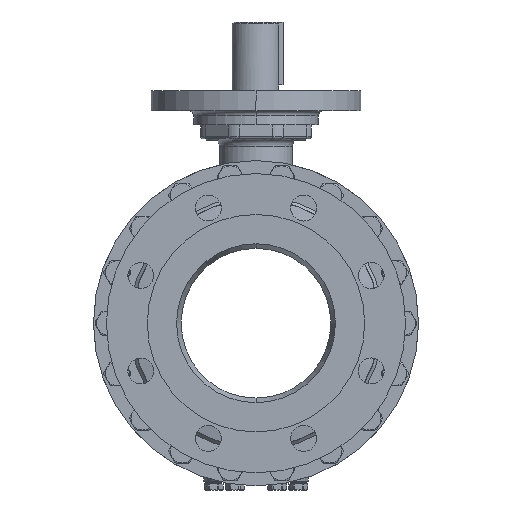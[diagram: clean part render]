
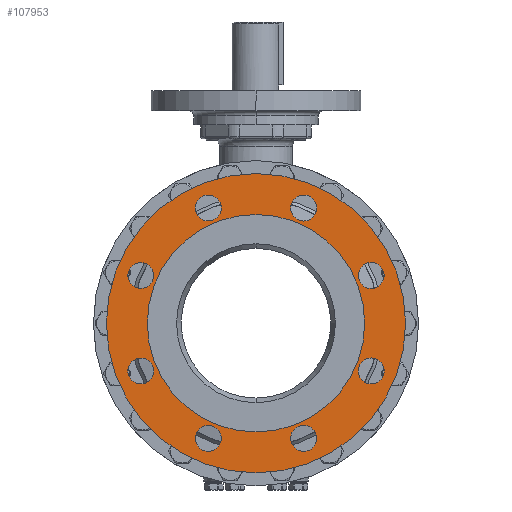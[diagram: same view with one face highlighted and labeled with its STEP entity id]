
A CAD part, left-side view. The second image highlights one B-rep face of the part: STEP entity #107953.
In plain terms, the highlighted planar face has unit normal (-1, 0, 0).
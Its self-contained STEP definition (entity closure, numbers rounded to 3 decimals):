
#28371=CARTESIAN_POINT('',(-198.5,0.,0.));
#28372=DIRECTION('',(-1.,0.,0.));
#28373=DIRECTION('',(0.,0.,1.));
#28374=AXIS2_PLACEMENT_3D('',#28371,#28372,#28373);
#28376=CARTESIAN_POINT('',(-198.5,0.,0.));
#28377=DIRECTION('',(-1.,0.,0.));
#28378=DIRECTION('',(0.,0.,-1.));
#28379=AXIS2_PLACEMENT_3D('',#28376,#28377,#28378);
#28381=CARTESIAN_POINT('',(-198.5,-47.835,115.485));
#28382=DIRECTION('',(-1.,0.,0.));
#28383=DIRECTION('',(0.,-1.,0.));
#28384=AXIS2_PLACEMENT_3D('',#28381,#28382,#28383);
#28386=CARTESIAN_POINT('',(-198.5,-47.835,115.485));
#28387=DIRECTION('',(-1.,0.,0.));
#28388=DIRECTION('',(0.,1.,0.));
#28389=AXIS2_PLACEMENT_3D('',#28386,#28387,#28388);
#28391=CARTESIAN_POINT('',(-198.5,47.835,115.485));
#28392=DIRECTION('',(-1.,0.,0.));
#28393=DIRECTION('',(0.,-0.707,0.707));
#28394=AXIS2_PLACEMENT_3D('',#28391,#28392,#28393);
#28396=CARTESIAN_POINT('',(-198.5,47.835,115.485));
#28397=DIRECTION('',(-1.,0.,0.));
#28398=DIRECTION('',(0.,0.707,-0.707));
#28399=AXIS2_PLACEMENT_3D('',#28396,#28397,#28398);
#28401=CARTESIAN_POINT('',(-198.5,115.485,47.835));
#28402=DIRECTION('',(-1.,0.,0.));
#28403=DIRECTION('',(0.,0.,1.));
#28404=AXIS2_PLACEMENT_3D('',#28401,#28402,#28403);
#28406=CARTESIAN_POINT('',(-198.5,115.485,47.835));
#28407=DIRECTION('',(-1.,0.,0.));
#28408=DIRECTION('',(0.,0.,-1.));
#28409=AXIS2_PLACEMENT_3D('',#28406,#28407,#28408);
#28411=CARTESIAN_POINT('',(-198.5,115.485,-47.835));
#28412=DIRECTION('',(-1.,0.,0.));
#28413=DIRECTION('',(0.,0.707,0.707));
#28414=AXIS2_PLACEMENT_3D('',#28411,#28412,#28413);
#28416=CARTESIAN_POINT('',(-198.5,115.485,-47.835));
#28417=DIRECTION('',(-1.,0.,0.));
#28418=DIRECTION('',(0.,-0.707,-0.707));
#28419=AXIS2_PLACEMENT_3D('',#28416,#28417,#28418);
#28421=CARTESIAN_POINT('',(-198.5,47.835,-115.485));
#28422=DIRECTION('',(-1.,0.,0.));
#28423=DIRECTION('',(0.,1.,0.));
#28424=AXIS2_PLACEMENT_3D('',#28421,#28422,#28423);
#28426=CARTESIAN_POINT('',(-198.5,47.835,-115.485));
#28427=DIRECTION('',(-1.,0.,0.));
#28428=DIRECTION('',(0.,-1.,0.));
#28429=AXIS2_PLACEMENT_3D('',#28426,#28427,#28428);
#28431=CARTESIAN_POINT('',(-198.5,-47.835,-115.485));
#28432=DIRECTION('',(-1.,0.,0.));
#28433=DIRECTION('',(0.,0.707,-0.707));
#28434=AXIS2_PLACEMENT_3D('',#28431,#28432,#28433);
#28436=CARTESIAN_POINT('',(-198.5,-47.835,-115.485));
#28437=DIRECTION('',(-1.,0.,0.));
#28438=DIRECTION('',(0.,-0.707,0.707));
#28439=AXIS2_PLACEMENT_3D('',#28436,#28437,#28438);
#28441=CARTESIAN_POINT('',(-198.5,-115.485,-47.835));
#28442=DIRECTION('',(-1.,0.,0.));
#28443=DIRECTION('',(0.,0.,-1.));
#28444=AXIS2_PLACEMENT_3D('',#28441,#28442,#28443);
#28446=CARTESIAN_POINT('',(-198.5,-115.485,-47.835));
#28447=DIRECTION('',(-1.,0.,0.));
#28448=DIRECTION('',(0.,0.,1.));
#28449=AXIS2_PLACEMENT_3D('',#28446,#28447,#28448);
#28451=CARTESIAN_POINT('',(-198.5,-115.485,47.835));
#28452=DIRECTION('',(-1.,0.,0.));
#28453=DIRECTION('',(0.,-0.707,-0.707));
#28454=AXIS2_PLACEMENT_3D('',#28451,#28452,#28453);
#28456=CARTESIAN_POINT('',(-198.5,-115.485,47.835));
#28457=DIRECTION('',(-1.,0.,0.));
#28458=DIRECTION('',(0.,0.707,0.707));
#28459=AXIS2_PLACEMENT_3D('',#28456,#28457,#28458);
#28465=CARTESIAN_POINT('',(-198.5,0.,0.));
#28466=DIRECTION('',(-1.,0.,0.));
#28467=DIRECTION('',(0.,0.,1.));
#28468=AXIS2_PLACEMENT_3D('',#28465,#28466,#28467);
#28494=CARTESIAN_POINT('',(-198.5,0.,0.));
#28495=DIRECTION('',(1.,0.,0.));
#28496=DIRECTION('',(0.,0.,1.));
#28497=AXIS2_PLACEMENT_3D('',#28494,#28495,#28496);
#57952=CARTESIAN_POINT('',(-198.5,0.,109.));
#57953=CARTESIAN_POINT('',(-198.5,0.,-109.));
#57954=VERTEX_POINT('',#57952);
#57955=VERTEX_POINT('',#57953);
#57956=CARTESIAN_POINT('',(-198.5,0.,150.));
#57957=CARTESIAN_POINT('',(-198.5,0.,-150.));
#57958=VERTEX_POINT('',#57956);
#57959=VERTEX_POINT('',#57957);
#57968=CARTESIAN_POINT('',(-198.5,-60.835,115.485));
#57969=CARTESIAN_POINT('',(-198.5,-34.835,115.485));
#57970=VERTEX_POINT('',#57968);
#57971=VERTEX_POINT('',#57969);
#57976=CARTESIAN_POINT('',(-198.5,38.643,124.677));
#57977=CARTESIAN_POINT('',(-198.5,57.028,106.293));
#57978=VERTEX_POINT('',#57976);
#57979=VERTEX_POINT('',#57977);
#57984=CARTESIAN_POINT('',(-198.5,115.485,60.835));
#57985=CARTESIAN_POINT('',(-198.5,115.485,34.835));
#57986=VERTEX_POINT('',#57984);
#57987=VERTEX_POINT('',#57985);
#57992=CARTESIAN_POINT('',(-198.5,124.677,-38.643));
#57993=CARTESIAN_POINT('',(-198.5,106.293,-57.028));
#57994=VERTEX_POINT('',#57992);
#57995=VERTEX_POINT('',#57993);
#58000=CARTESIAN_POINT('',(-198.5,60.835,-115.485));
#58001=CARTESIAN_POINT('',(-198.5,34.835,-115.485));
#58002=VERTEX_POINT('',#58000);
#58003=VERTEX_POINT('',#58001);
#58008=CARTESIAN_POINT('',(-198.5,-38.643,-124.677));
#58009=CARTESIAN_POINT('',(-198.5,-57.028,-106.293));
#58010=VERTEX_POINT('',#58008);
#58011=VERTEX_POINT('',#58009);
#58016=CARTESIAN_POINT('',(-198.5,-115.485,-60.835));
#58017=CARTESIAN_POINT('',(-198.5,-115.485,-34.835));
#58018=VERTEX_POINT('',#58016);
#58019=VERTEX_POINT('',#58017);
#58024=CARTESIAN_POINT('',(-198.5,-124.677,38.643));
#58025=CARTESIAN_POINT('',(-198.5,-106.293,57.028));
#58026=VERTEX_POINT('',#58024);
#58027=VERTEX_POINT('',#58025);
#107889=CARTESIAN_POINT('',(-198.5,0.,0.));
#107890=DIRECTION('',(1.,0.,0.));
#107891=DIRECTION('',(0.,0.,1.));
#107892=AXIS2_PLACEMENT_3D('',#107889,#107890,#107891);
#107893=PLANE('',#107892);
#107895=ORIENTED_EDGE('',*,*,#107894,.F.);
#107896=ORIENTED_EDGE('',*,*,#107879,.F.);
#107897=EDGE_LOOP('',(#107895,#107896));
#107898=FACE_OUTER_BOUND('',#107897,.F.);
#107900=ORIENTED_EDGE('',*,*,#107899,.T.);
#107902=ORIENTED_EDGE('',*,*,#107901,.F.);
#107903=EDGE_LOOP('',(#107900,#107902));
#107904=FACE_BOUND('',#107903,.F.);
#107906=ORIENTED_EDGE('',*,*,#107905,.T.);
#107908=ORIENTED_EDGE('',*,*,#107907,.T.);
#107909=EDGE_LOOP('',(#107906,#107908));
#107910=FACE_BOUND('',#107909,.F.);
#107912=ORIENTED_EDGE('',*,*,#107911,.T.);
#107914=ORIENTED_EDGE('',*,*,#107913,.T.);
#107915=EDGE_LOOP('',(#107912,#107914));
#107916=FACE_BOUND('',#107915,.F.);
#107918=ORIENTED_EDGE('',*,*,#107917,.T.);
#107920=ORIENTED_EDGE('',*,*,#107919,.T.);
#107921=EDGE_LOOP('',(#107918,#107920));
#107922=FACE_BOUND('',#107921,.F.);
#107924=ORIENTED_EDGE('',*,*,#107923,.T.);
#107926=ORIENTED_EDGE('',*,*,#107925,.T.);
#107927=EDGE_LOOP('',(#107924,#107926));
#107928=FACE_BOUND('',#107927,.F.);
#107930=ORIENTED_EDGE('',*,*,#107929,.T.);
#107932=ORIENTED_EDGE('',*,*,#107931,.T.);
#107933=EDGE_LOOP('',(#107930,#107932));
#107934=FACE_BOUND('',#107933,.F.);
#107936=ORIENTED_EDGE('',*,*,#107935,.T.);
#107938=ORIENTED_EDGE('',*,*,#107937,.T.);
#107939=EDGE_LOOP('',(#107936,#107938));
#107940=FACE_BOUND('',#107939,.F.);
#107942=ORIENTED_EDGE('',*,*,#107941,.T.);
#107944=ORIENTED_EDGE('',*,*,#107943,.T.);
#107945=EDGE_LOOP('',(#107942,#107944));
#107946=FACE_BOUND('',#107945,.F.);
#107948=ORIENTED_EDGE('',*,*,#107947,.T.);
#107950=ORIENTED_EDGE('',*,*,#107949,.T.);
#107951=EDGE_LOOP('',(#107948,#107950));
#107952=FACE_BOUND('',#107951,.F.);
#107953=ADVANCED_FACE('',(#107898,#107904,#107910,#107916,#107922,#107928,
#107934,#107940,#107946,#107952),#107893,.F.);
#28375=CIRCLE('',#28374,150.);
#28380=CIRCLE('',#28379,150.);
#28385=CIRCLE('',#28384,13.);
#28390=CIRCLE('',#28389,13.);
#28395=CIRCLE('',#28394,13.);
#28400=CIRCLE('',#28399,13.);
#28405=CIRCLE('',#28404,13.);
#28410=CIRCLE('',#28409,13.);
#28415=CIRCLE('',#28414,13.);
#28420=CIRCLE('',#28419,13.);
#28425=CIRCLE('',#28424,13.);
#28430=CIRCLE('',#28429,13.);
#28435=CIRCLE('',#28434,13.);
#28440=CIRCLE('',#28439,13.);
#28445=CIRCLE('',#28444,13.);
#28450=CIRCLE('',#28449,13.);
#28455=CIRCLE('',#28454,13.);
#28460=CIRCLE('',#28459,13.);
#28469=CIRCLE('',#28468,109.);
#28498=CIRCLE('',#28497,109.);
#107879=EDGE_CURVE('',#57959,#57958,#28380,.T.);
#107894=EDGE_CURVE('',#57958,#57959,#28375,.T.);
#107899=EDGE_CURVE('',#57954,#57955,#28469,.T.);
#107901=EDGE_CURVE('',#57954,#57955,#28498,.T.);
#107905=EDGE_CURVE('',#57970,#57971,#28385,.T.);
#107907=EDGE_CURVE('',#57971,#57970,#28390,.T.);
#107911=EDGE_CURVE('',#57978,#57979,#28395,.T.);
#107913=EDGE_CURVE('',#57979,#57978,#28400,.T.);
#107917=EDGE_CURVE('',#57986,#57987,#28405,.T.);
#107919=EDGE_CURVE('',#57987,#57986,#28410,.T.);
#107923=EDGE_CURVE('',#57994,#57995,#28415,.T.);
#107925=EDGE_CURVE('',#57995,#57994,#28420,.T.);
#107929=EDGE_CURVE('',#58002,#58003,#28425,.T.);
#107931=EDGE_CURVE('',#58003,#58002,#28430,.T.);
#107935=EDGE_CURVE('',#58010,#58011,#28435,.T.);
#107937=EDGE_CURVE('',#58011,#58010,#28440,.T.);
#107941=EDGE_CURVE('',#58018,#58019,#28445,.T.);
#107943=EDGE_CURVE('',#58019,#58018,#28450,.T.);
#107947=EDGE_CURVE('',#58026,#58027,#28455,.T.);
#107949=EDGE_CURVE('',#58027,#58026,#28460,.T.);
